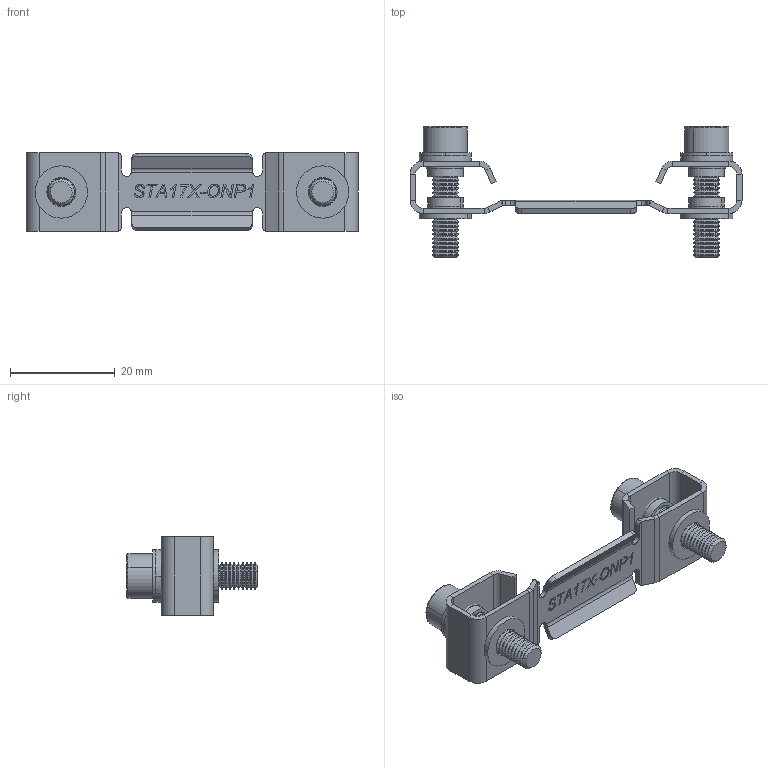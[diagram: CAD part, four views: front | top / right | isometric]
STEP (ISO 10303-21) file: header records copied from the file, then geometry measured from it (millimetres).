
FILE_DESCRIPTION (( 'STEP AP203' ), '1' );
FILE_NAME ('PKIT591X.STEP', '2018-12-17T13:11:07', ( '' ), ( '' ), 'SwSTEP 2.0', 'SolidWorks 2019', '' );
FILE_SCHEMA (( 'CONFIG_CONTROL_DESIGN' ));
Length unit declared in the file: millimetre
Products named in the file (5): STA173X_Revisione 1; PKIT591X; RON003X; MIM507X_MIM507; MIM897X_MIM897
Assembly tree (9 placements, depth 2):
  PKIT591X
    STA173X_Revisione 1
    MIM507X_MIM507  x2
    MIM897X_MIM897  x2
    RON003X  x4
Bounding box: 63.5 x 25 x 15 mm (x, y, z)
Volume: 3172 mm3; surface area: 6301.8 mm2
Topology: 9 solids, 9 shells, 745 faces, 1897 edges, 1192 vertices
Faces by surface type: plane 262, cylinder 232, cone 184, bspline 59, torus 8
Entity records: 17648 total; most frequent: CARTESIAN_POINT 5279, ORIENTED_EDGE 2478, DIRECTION 2407, EDGE_CURVE 1239, AXIS2_PLACEMENT_3D 851, VERTEX_POINT 775, LINE 705, VECTOR 705
